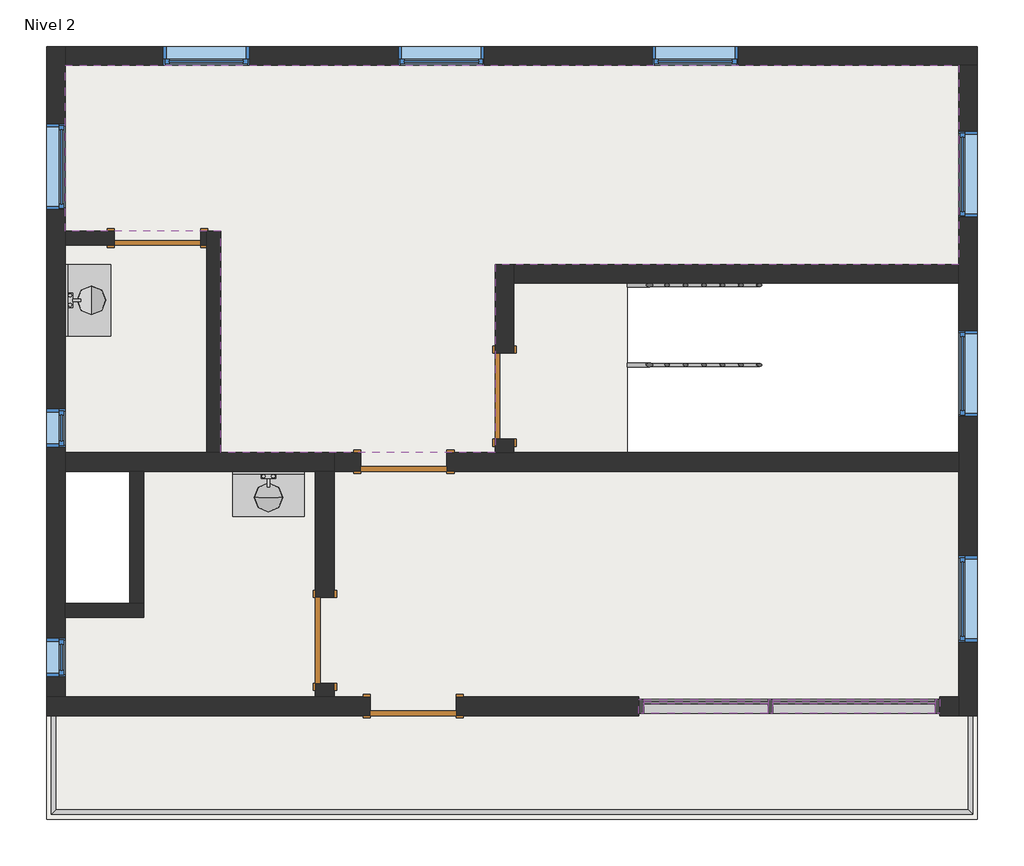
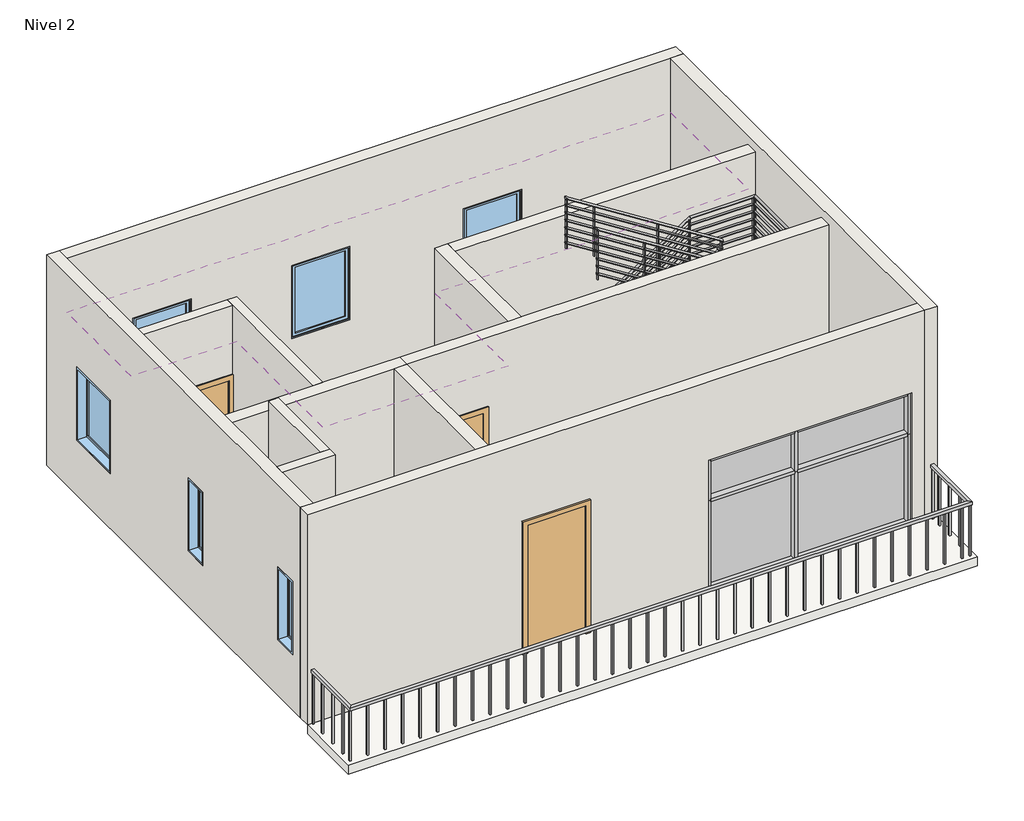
# One storey, incomplete: 13 walls, 12 members, 9 windows, 5 doors, 4 plates, 3 railings, 2 flow terminals, 1 covering, 1 slab.
"""IFC4 building model written with IfcOpenShell, lengths in millimetres."""

from ifc_helpers import new_model, si_unit, frame, origin, place, context, project, spatial, polyline, outline, extrude, faceted_brep, transform, mapped, element, save
from components import m_single_flush_0915_x_2134mm_6a9e8738, m_single_flush_0915_x_2134mm_727434cd, m_single_flush_0915_x_2134mm_f3d7f739, m_lavatory_vanity_760_mmx455_mm_private_5dea4168, rectangular_mullion_50mm_x_150mm_8ba0571e, rectangular_mullion_50mm_x_150mm_225b9777, rectangular_mullion_50mm_x_150mm_1a3ebe9d, rectangular_mullion_50mm_x_150mm_3dc27107, rectangular_mullion_50mm_x_150mm_964d2677, rectangular_mullion_50mm_x_150mm_461a195c, rectangular_mullion_50mm_x_150mm_84253eda, rectangular_mullion_50mm_x_150mm_205d2b36, system_panel_glazed_5259bb3b, system_panel_glazed_2a0213e2, system_panel_glazed_1ff09d7a, system_panel_glazed_c62e4b68, railing_900mm_pipe_3b92be15, railing_900mm_pipe_d5eff310, railing_900mm_rectangular_e904e20f, m_fixed_0406_x_1220mm_71a1fb2c, m_fixed_0915_x_1220mm_488fb2fb, m_fixed_0915_x_1220mm_5cd8e2eb

model = new_model("IFC4")

# Units and contexts
model_context = context("Model", 3, world=origin())
ifc_project = project(units=[si_unit("LENGTHUNIT", "METRE", prefix="MILLI")], contexts=[model_context])

# Site, building, storey
site = spatial("IfcSite", under=ifc_project)
building = spatial("IfcBuilding", under=site)
storey = spatial("IfcBuildingStorey", under=building, Name="Nivel 2", Elevation=3500.0)

# Covering
placement = place(None, origin())
element("IfcCovering", 1, ObjectType="600 x 1200mm grid", at=placement, inside=storey, context=model_context, shape_type="SweptSolid", body=[
    extrude(outline(polyline([(3069.2181942, -3352.0090589), (3904.2181942, -3352.0090589), (3904.2181942, -1797.0090589), (5729.2181942, -1797.0090589), (5729.2181942, -4197.0090589), (3069.2181942, -4197.0090589), (3069.2181942, -3352.0090589)])), frame((0.0, 0.0, 6100.0), z_axis=(0.0, 0.0, 1.0), x_axis=(1.0, 0.0, 0.0)), (0.0, 0.0, 1.0), 52.0),
    extrude(outline(polyline([(12569.2181942, 2522.9909411), (12569.2181942, 404.5332903), (7639.6809687, 404.5332903), (7639.6809687, -1597.0090589), (4724.2181942, -1597.0090589), (4724.2181942, 757.9909411), (3069.2181942, 757.9909411), (3069.2181942, 2522.9909411), (12569.2181942, 2522.9909411)])), frame((0.0, 0.0, 6100.0), z_axis=(0.0, 0.0, 1.0), x_axis=(1.0, 0.0, 0.0)), (0.0, 0.0, 1.0), 52.0),
    extrude(outline(polyline([(5929.2181942, -4197.0090589), (5929.2181942, -1797.0090589), (12569.2181942, -1797.0090589), (12569.2181942, -4197.0090589), (5929.2181942, -4197.0090589)])), frame((0.0, 0.0, 6100.0), z_axis=(0.0, 0.0, 1.0), x_axis=(1.0, 0.0, 0.0)), (0.0, 0.0, 1.0), 52.0),
    extrude(outline(polyline([(3069.2181942, -1597.0090589), (3069.2181942, 607.9909411), (4574.2181942, 607.9909411), (4574.2181942, -1597.0090589), (3069.2181942, -1597.0090589)])), frame((0.0, 0.0, 6100.0), z_axis=(0.0, 0.0, 1.0), x_axis=(1.0, 0.0, 0.0)), (0.0, 0.0, 1.0), 52.0),
])

# Doors
m_single_flush_0915_x_2134mm_shape = m_single_flush_0915_x_2134mm_6a9e8738(model_context)
element("IfcDoor", 2, ObjectType="M_Single-Flush : 0915 x 2134mm", at=placement, inside=storey, context=model_context, shape_type="MappedRepresentation", body=[
    mapped(m_single_flush_0915_x_2134mm_shape, transform((6769.2181942, -4297.0090589, 3500.0), x_axis=(-1.0, 0.0, 0.0), y_axis=(0.0, -1.0, 0.0), z_axis=(0.0, 0.0, 1.0))),
])
element("IfcDoor", 3, ObjectType="M_Single-Flush : 0915 x 2134mm", at=placement, inside=storey, context=model_context, shape_type="MappedRepresentation", body=[
    mapped(m_single_flush_0915_x_2134mm_shape, transform((6669.2181942, -1697.0090589, 3500.0), x_axis=(-1.0, 0.0, 0.0), y_axis=(0.0, -1.0, 0.0), z_axis=(0.0, 0.0, 1.0))),
])
m_single_flush_0915_x_2134mm_2_shape = m_single_flush_0915_x_2134mm_727434cd(model_context)
element("IfcDoor", 4, ObjectType="M_Single-Flush : 0915 x 2134mm", at=placement, inside=storey, context=model_context, shape_type="MappedRepresentation", body=[
    mapped(m_single_flush_0915_x_2134mm_2_shape, transform((5829.2181942, -3597.0090589, 3500.0), x_axis=(0.0, -1.0, 0.0), y_axis=(1.0, 0.0, 0.0), z_axis=(0.0, 0.0, 1.0))),
])
element("IfcDoor", 5, ObjectType="M_Single-Flush : 0915 x 2134mm", at=placement, inside=storey, context=model_context, shape_type="MappedRepresentation", body=[
    mapped(m_single_flush_0915_x_2134mm_2_shape, transform((7739.6809687, -997.0090589, 3500.0), x_axis=(0.0, -1.0, 0.0), y_axis=(1.0, 0.0, 0.0), z_axis=(0.0, 0.0, 1.0))),
])
m_single_flush_0915_x_2134mm_3_shape = m_single_flush_0915_x_2134mm_f3d7f739(model_context)
element("IfcDoor", 6, ObjectType="M_Single-Flush : 0915 x 2134mm", at=placement, inside=storey, context=model_context, shape_type="MappedRepresentation", body=[
    mapped(m_single_flush_0915_x_2134mm_3_shape, transform((4049.2181942, 682.9909411, 3500.0), x_axis=(1.0, 0.0, 0.0), y_axis=(0.0, 1.0, 0.0), z_axis=(0.0, 0.0, 1.0))),
])

# Flow terminals
m_lavatory_vanity_760_mmx455_mm_private_shape = m_lavatory_vanity_760_mmx455_mm_private_5dea4168(model_context)
element("IfcFlowTerminal", 7, ObjectType="M_Lavatory - Vanity : 760 mmx455 mm - Private", at=placement, inside=storey, context=model_context, shape_type="MappedRepresentation", body=[
    mapped(m_lavatory_vanity_760_mmx455_mm_private_shape, transform((5229.2181942, -1797.0090589, 3500.0), x_axis=(0.0, -1.0, 0.0), y_axis=(1.0, 0.0, 0.0), z_axis=(0.0, 0.0, 1.0))),
])
element("IfcFlowTerminal", 8, ObjectType="M_Lavatory - Vanity : 760 mmx455 mm - Private", at=placement, inside=storey, context=model_context, shape_type="MappedRepresentation", body=[
    mapped(m_lavatory_vanity_760_mmx455_mm_private_shape, transform((3069.2181942, 22.9909411, 3500.0), x_axis=(1.0, 0.0, 0.0), y_axis=(0.0, 1.0, 0.0), z_axis=(0.0, 0.0, 1.0))),
])

# Members
rectangular_mullion_50mm_x_150mm_shape = rectangular_mullion_50mm_x_150mm_8ba0571e(model_context)
element("IfcMember", 9, ObjectType="Rectangular Mullion : 50mm x 150mm", at=placement, inside=storey, context=model_context, shape_type="MappedRepresentation", body=[
    mapped(rectangular_mullion_50mm_x_150mm_shape, transform((10594.2181939, -4297.0090589, 5700.0), x_axis=(0.0, 0.0, 1.0), y_axis=(0.0, 1.0, 0.0), z_axis=(-1.0, 0.0, 0.0))),
])
rectangular_mullion_50mm_x_150mm_2_shape = rectangular_mullion_50mm_x_150mm_225b9777(model_context)
element("IfcMember", 10, ObjectType="Rectangular Mullion : 50mm x 150mm", at=placement, inside=storey, context=model_context, shape_type="MappedRepresentation", body=[
    mapped(rectangular_mullion_50mm_x_150mm_2_shape, transform((10544.2181939, -4297.0090589, 3500.0), x_axis=(0.0, 0.0, -1.0), y_axis=(0.0, 1.0, 0.0), z_axis=(1.0, 0.0, 0.0))),
])
rectangular_mullion_50mm_x_150mm_3_shape = rectangular_mullion_50mm_x_150mm_1a3ebe9d(model_context)
element("IfcMember", 11, ObjectType="Rectangular Mullion : 50mm x 150mm", at=placement, inside=storey, context=model_context, shape_type="MappedRepresentation", body=[
    mapped(rectangular_mullion_50mm_x_150mm_3_shape, transform((9219.2181942, -4297.0090589, 5000.0), x_axis=(0.0, 0.0, 1.0), y_axis=(0.0, 1.0, 0.0), z_axis=(-1.0, 0.0, 0.0))),
])
rectangular_mullion_50mm_x_150mm_4_shape = rectangular_mullion_50mm_x_150mm_3dc27107(model_context)
element("IfcMember", 12, ObjectType="Rectangular Mullion : 50mm x 150mm", at=placement, inside=storey, context=model_context, shape_type="MappedRepresentation", body=[
    mapped(rectangular_mullion_50mm_x_150mm_4_shape, transform((10594.2181939, -4297.0090589, 5000.0), x_axis=(0.0, 0.0, 1.0), y_axis=(0.0, 1.0, 0.0), z_axis=(-1.0, 0.0, 0.0))),
])
rectangular_mullion_50mm_x_150mm_5_shape = rectangular_mullion_50mm_x_150mm_964d2677(model_context)
element("IfcMember", 13, ObjectType="Rectangular Mullion : 50mm x 150mm", at=placement, inside=storey, context=model_context, shape_type="MappedRepresentation", body=[
    mapped(rectangular_mullion_50mm_x_150mm_5_shape, transform((10569.2181939, -4297.0090589, 3500.0), x_axis=(-1.0, 0.0, 0.0), y_axis=(0.0, 1.0, 0.0), z_axis=(0.0, 0.0, -1.0))),
])
element("IfcMember", 14, ObjectType="Rectangular Mullion : 50mm x 150mm", at=placement, inside=storey, context=model_context, shape_type="MappedRepresentation", body=[
    mapped(rectangular_mullion_50mm_x_150mm_shape, transform((12319.2181942, -4297.0090589, 3500.0), x_axis=(0.0, 0.0, -1.0), y_axis=(0.0, 1.0, 0.0), z_axis=(1.0, 0.0, 0.0))),
])
element("IfcMember", 15, ObjectType="Rectangular Mullion : 50mm x 150mm", at=placement, inside=storey, context=model_context, shape_type="MappedRepresentation", body=[
    mapped(rectangular_mullion_50mm_x_150mm_2_shape, transform((9219.2181942, -4297.0090589, 5700.0), x_axis=(0.0, 0.0, 1.0), y_axis=(0.0, 1.0, 0.0), z_axis=(-1.0, 0.0, 0.0))),
])
rectangular_mullion_50mm_x_150mm_6_shape = rectangular_mullion_50mm_x_150mm_461a195c(model_context)
element("IfcMember", 16, ObjectType="Rectangular Mullion : 50mm x 150mm", at=placement, inside=storey, context=model_context, shape_type="MappedRepresentation", body=[
    mapped(rectangular_mullion_50mm_x_150mm_6_shape, transform((12369.2181942, -4297.0090589, 5000.0), x_axis=(1.0, 0.0, 0.0), y_axis=(0.0, 1.0, 0.0), z_axis=(0.0, 0.0, 1.0))),
])
element("IfcMember", 17, ObjectType="Rectangular Mullion : 50mm x 150mm", at=placement, inside=storey, context=model_context, shape_type="MappedRepresentation", body=[
    mapped(rectangular_mullion_50mm_x_150mm_6_shape, transform((9169.2181942, -4297.0090589, 3500.0), x_axis=(-1.0, 0.0, 0.0), y_axis=(0.0, 1.0, 0.0), z_axis=(0.0, 0.0, -1.0))),
])
rectangular_mullion_50mm_x_150mm_7_shape = rectangular_mullion_50mm_x_150mm_84253eda(model_context)
element("IfcMember", 18, ObjectType="Rectangular Mullion : 50mm x 150mm", at=placement, inside=storey, context=model_context, shape_type="MappedRepresentation", body=[
    mapped(rectangular_mullion_50mm_x_150mm_7_shape, transform((10569.2181939, -4297.0090589, 5000.0), x_axis=(-1.0, 0.0, 0.0), y_axis=(0.0, 1.0, 0.0), z_axis=(0.0, 0.0, -1.0))),
])
rectangular_mullion_50mm_x_150mm_8_shape = rectangular_mullion_50mm_x_150mm_205d2b36(model_context)
element("IfcMember", 19, ObjectType="Rectangular Mullion : 50mm x 150mm", at=placement, inside=storey, context=model_context, shape_type="MappedRepresentation", body=[
    mapped(rectangular_mullion_50mm_x_150mm_8_shape, transform((9169.2181942, -4297.0090589, 5000.0), x_axis=(-1.0, 0.0, 0.0), y_axis=(0.0, 1.0, 0.0), z_axis=(0.0, 0.0, -1.0))),
])
element("IfcMember", 20, ObjectType="Rectangular Mullion : 50mm x 150mm", at=placement, inside=storey, context=model_context, shape_type="MappedRepresentation", body=[
    mapped(rectangular_mullion_50mm_x_150mm_8_shape, transform((12369.2181942, -4297.0090589, 5700.0), x_axis=(1.0, 0.0, 0.0), y_axis=(0.0, 1.0, 0.0), z_axis=(0.0, 0.0, 1.0))),
])

# Plates
system_panel_glazed_shape = system_panel_glazed_5259bb3b(model_context)
element("IfcPlate", 21, ObjectType="System Panel : Glazed", at=placement, inside=storey, context=model_context, shape_type="MappedRepresentation", body=[
    mapped(system_panel_glazed_shape, transform((11456.718194, -4297.0090589, 3550.0), x_axis=(-1.0, 0.0, 0.0), y_axis=(0.0, -1.0, 0.0), z_axis=(0.0, 0.0, 1.0))),
])
system_panel_glazed_2_shape = system_panel_glazed_2a0213e2(model_context)
element("IfcPlate", 22, ObjectType="System Panel : Glazed", at=placement, inside=storey, context=model_context, shape_type="MappedRepresentation", body=[
    mapped(system_panel_glazed_2_shape, transform((9881.718194, -4297.0090589, 3550.0), x_axis=(-1.0, 0.0, 0.0), y_axis=(0.0, -1.0, 0.0), z_axis=(0.0, 0.0, 1.0))),
])
system_panel_glazed_3_shape = system_panel_glazed_1ff09d7a(model_context)
element("IfcPlate", 23, ObjectType="System Panel : Glazed", at=placement, inside=storey, context=model_context, shape_type="MappedRepresentation", body=[
    mapped(system_panel_glazed_3_shape, transform((11456.718194, -4297.0090589, 5025.0), x_axis=(-1.0, 0.0, 0.0), y_axis=(0.0, -1.0, 0.0), z_axis=(0.0, 0.0, 1.0))),
])
system_panel_glazed_4_shape = system_panel_glazed_c62e4b68(model_context)
element("IfcPlate", 24, ObjectType="System Panel : Glazed", at=placement, inside=storey, context=model_context, shape_type="MappedRepresentation", body=[
    mapped(system_panel_glazed_4_shape, transform((9881.718194, -4297.0090589, 5025.0), x_axis=(-1.0, 0.0, 0.0), y_axis=(0.0, -1.0, 0.0), z_axis=(0.0, 0.0, 1.0))),
])

# Railings
railing_900mm_pipe_shape = railing_900mm_pipe_3b92be15(model_context)
element("IfcRailing", 25, ObjectType="900mm Pipe", at=placement, inside=storey, context=model_context, shape_type="MappedRepresentation", body=[
    mapped(railing_900mm_pipe_shape, transform((0.0, 0.0, 0.0), x_axis=(1.0, 0.0, 0.0), y_axis=(0.0, 1.0, 0.0), z_axis=(0.0, 0.0, 1.0))),
])
railing_900mm_pipe_2_shape = railing_900mm_pipe_d5eff310(model_context)
element("IfcRailing", 26, ObjectType="900mm Pipe", at=placement, inside=storey, context=model_context, shape_type="MappedRepresentation", body=[
    mapped(railing_900mm_pipe_2_shape, transform((0.0, 0.0, 0.0), x_axis=(1.0, 0.0, 0.0), y_axis=(0.0, 1.0, 0.0), z_axis=(0.0, 0.0, 1.0))),
])
railing_900mm_rectangular_shape = railing_900mm_rectangular_e904e20f(model_context)
element("IfcRailing", 27, ObjectType="900mm Rectangular", at=placement, inside=storey, context=model_context, shape_type="MappedRepresentation", body=[
    mapped(railing_900mm_rectangular_shape, transform((0.0, 0.0, 0.0), x_axis=(1.0, 0.0, 0.0), y_axis=(0.0, 1.0, 0.0), z_axis=(0.0, 0.0, 1.0))),
])

# Slab
element("IfcSlab", 28, ObjectType="Generic Floor - 400mm", at=placement, inside=storey, context=model_context, shape_type="SweptSolid", body=[
    extrude(outline(polyline([(12769.2181942, -5497.0090589), (2869.2181942, -5497.0090589), (2869.2181942, -4397.0090589), (3069.2181942, -4397.0090589), (3069.2181942, -3202.0090589), (3754.2181942, -3202.0090589), (3754.2181942, -1797.0090589), (3069.2181942, -1797.0090589), (3069.2181942, 2522.9909411), (12569.2181942, 2522.9909411), (12569.2181942, 204.5332903), (9044.2181942, 204.5332903), (9044.2181942, -1597.0090589), (12569.2181942, -1597.0090589), (12569.2181942, -4397.0090589), (12769.2181942, -4397.0090589), (12769.2181942, -5497.0090589)])), frame((0.0, 0.0, 3350.0), z_axis=(0.0, 0.0, 1.0), x_axis=(1.0, 0.0, 0.0)), (0.0, 0.0, 1.0), 150.0),
])

# Walls
element("IfcWall", 29, ObjectType="Generic - 150mm", at=placement, inside=storey, context=model_context, shape_type="SweptSolid", body=[
    extrude(outline(polyline([(3754.2181942, -3202.0090589), (3754.2181942, -1797.0090589), (3904.2181942, -1797.0090589), (3904.2181942, -3202.0090589), (3754.2181942, -3202.0090589)])), frame((0.0, 0.0, 3500.0), z_axis=(0.0, 0.0, 1.0), x_axis=(1.0, 0.0, 0.0)), (0.0, 0.0, 1.0), 3500.0),
])
element("IfcWall", 30, ObjectType="Generic - 150mm", at=placement, inside=storey, context=model_context, shape_type="Brep", body=[
    faceted_brep([(4724.2181942, -1597.0090589, 3500.0), (4724.2181942, 757.9909411, 3500.0), (4724.2181942, 757.9909411, 6850.0), (4724.2181942, -1597.0090589, 6850.0), (4574.2181942, -1597.0090589, 3500.0), (4574.2181942, -1597.0090589, 6850.0), (4574.2181942, 607.9909411, 6850.0), (4574.2181942, 757.9909411, 6850.0), (4574.2181942, 757.9909411, 3500.0), (4574.2181942, 607.9909411, 3500.0)], [[[0, 1, 2, 3]], [[4, 5, 6, 7, 8, 9]], [[1, 0, 4, 9, 8]], [[3, 2, 7, 6, 5]], [[2, 1, 8, 7]], [[0, 3, 5, 4]]]),
])
element("IfcWall", 31, ObjectType="Generic - 150mm", at=placement, inside=storey, context=model_context, shape_type="SweptSolid", body=[
    extrude(outline(polyline([(5634.0, 4506.7181942), (3500.0, 4506.7181942), (3500.0, 4574.2181942), (6850.0, 4574.2181942), (6850.0, 3069.2181942), (3500.0, 3069.2181942), (3500.0, 3591.7181942), (5634.0, 3591.7181942), (5634.0, 4506.7181942)])), frame((0.0, 607.9909411, 0.0), z_axis=(0.0, 1.0, 0.0), x_axis=(0.0, 0.0, 1.0)), (0.0, 0.0, 1.0), 150.0),
])
element("IfcWall", 32, ObjectType="Generic - 150mm", at=placement, inside=storey, context=model_context, shape_type="Brep", body=[
    faceted_brep([(3069.2181942, -3352.0090589, 3500.0), (3904.2181942, -3352.0090589, 3500.0), (3904.2181942, -3352.0090589, 7000.0), (3069.2181942, -3352.0090589, 7000.0), (3069.2181942, -3202.0090589, 3500.0), (3069.2181942, -3202.0090589, 7000.0), (3754.2181942, -3202.0090589, 7000.0), (3904.2181942, -3202.0090589, 7000.0), (3904.2181942, -3202.0090589, 3500.0), (3754.2181942, -3202.0090589, 3500.0)], [[[0, 1, 2, 3]], [[4, 5, 6, 7, 8, 9]], [[1, 0, 4, 9, 8]], [[3, 2, 7, 6, 5]], [[0, 3, 5, 4]], [[2, 1, 8, 7]]]),
])
element("IfcWall", 33, ObjectType="Generic - 200mm", at=placement, inside=storey, context=model_context, shape_type="Brep", body=[
    faceted_brep([(12769.2181942, 2722.9909411, 3500.0), (3069.2181942, 2722.9909411, 3500.0), (3069.2181942, 2722.9909411, 7000.0), (12769.2181942, 2722.9909411, 7000.0), (5026.7181942, 2722.9909411, 4415.0), (5026.7181942, 2722.9909411, 5635.0), (4111.7181942, 2722.9909411, 5635.0), (4111.7181942, 2722.9909411, 4415.0), (6611.7181942, 2722.9909411, 5635.0), (6611.7181942, 2722.9909411, 4415.0), (7526.7181942, 2722.9909411, 4415.0), (7526.7181942, 2722.9909411, 5635.0), (9311.7181942, 2722.9909411, 5635.0), (9311.7181942, 2722.9909411, 4415.0), (10226.7181942, 2722.9909411, 4415.0), (10226.7181942, 2722.9909411, 5635.0), (3069.2181942, 2522.9909411, 3500.0), (12569.2181942, 2522.9909411, 3500.0), (12769.2181942, 2522.9909411, 3500.0), (12769.2181942, 2522.9909411, 7000.0), (12569.2181942, 2522.9909411, 7000.0), (3069.2181942, 2522.9909411, 7000.0), (5026.7181942, 2522.9909411, 5635.0), (5026.7181942, 2522.9909411, 4415.0), (4111.7181942, 2522.9909411, 4415.0), (4111.7181942, 2522.9909411, 5635.0), (6611.7181942, 2522.9909411, 4415.0), (6611.7181942, 2522.9909411, 5635.0), (7526.7181942, 2522.9909411, 5635.0), (7526.7181942, 2522.9909411, 4415.0), (9311.7181942, 2522.9909411, 4415.0), (9311.7181942, 2522.9909411, 5635.0), (10226.7181942, 2522.9909411, 5635.0), (10226.7181942, 2522.9909411, 4415.0)], [[[0, 1, 2, 3], [4, 5, 6, 7], [8, 9, 10, 11], [12, 13, 14, 15]], [[16, 17, 18, 19, 20, 21], [22, 23, 24, 25], [26, 27, 28, 29], [30, 31, 32, 33]], [[1, 0, 18, 17, 16]], [[3, 2, 21, 20, 19]], [[0, 3, 19, 18]], [[2, 1, 16, 21]], [[4, 23, 22, 5]], [[6, 25, 24, 7]], [[23, 4, 7, 24]], [[26, 9, 8, 27]], [[10, 29, 28, 11]], [[9, 26, 29, 10]], [[30, 13, 12, 31]], [[14, 33, 32, 15]], [[13, 30, 33, 14]], [[25, 6, 5, 22]], [[11, 28, 27, 8]], [[15, 32, 31, 12]]]),
])
element("IfcWall", 34, ObjectType="Generic - 200mm", at=placement, inside=storey, context=model_context, shape_type="Brep", body=[
    faceted_brep([(12769.2181942, -4397.0090589, 3500.0), (12769.2181942, 2522.9909411, 3500.0), (12769.2181942, 2522.9909411, 7000.0), (12769.2181942, -4397.0090589, 7000.0), (12769.2181942, 905.4909411, 4415.0), (12769.2181942, 905.4909411, 5635.0), (12769.2181942, 1820.4909411, 5635.0), (12769.2181942, 1820.4909411, 4415.0), (12769.2181942, -1214.5090589, 4415.0), (12769.2181942, -1214.5090589, 5635.0), (12769.2181942, -299.5090589, 5635.0), (12769.2181942, -299.5090589, 4415.0), (12769.2181942, -3614.5090589, 4415.0), (12769.2181942, -3614.5090589, 5635.0), (12769.2181942, -2699.5090589, 5635.0), (12769.2181942, -2699.5090589, 4415.0), (12569.2181942, 2522.9909411, 3500.0), (12569.2181942, 404.5332903, 3500.0), (12569.2181942, 204.5332903, 3500.0), (12569.2181942, -1597.0090589, 3500.0), (12569.2181942, -1797.0090589, 3500.0), (12569.2181942, -4197.0090589, 3500.0), (12569.2181942, -4397.0090589, 3500.0), (12569.2181942, -4397.0090589, 7000.0), (12569.2181942, -4197.0090589, 7000.0), (12569.2181942, 2522.9909411, 7000.0), (12569.2181942, 905.4909411, 5635.0), (12569.2181942, 905.4909411, 4415.0), (12569.2181942, 1820.4909411, 4415.0), (12569.2181942, 1820.4909411, 5635.0), (12569.2181942, -1214.5090589, 5635.0), (12569.2181942, -1214.5090589, 4415.0), (12569.2181942, -299.5090589, 4415.0), (12569.2181942, -299.5090589, 5635.0), (12569.2181942, -3614.5090589, 5635.0), (12569.2181942, -3614.5090589, 4415.0), (12569.2181942, -2699.5090589, 4415.0), (12569.2181942, -2699.5090589, 5635.0)], [[[0, 1, 2, 3], [4, 5, 6, 7], [8, 9, 10, 11], [12, 13, 14, 15]], [[16, 17, 18, 19, 20, 21, 22, 23, 24, 25], [26, 27, 28, 29], [30, 31, 32, 33], [34, 35, 36, 37]], [[1, 0, 22, 21, 20, 19, 18, 17, 16]], [[3, 2, 25, 24, 23]], [[0, 3, 23, 22]], [[2, 1, 16, 25]], [[4, 27, 26, 5]], [[6, 29, 28, 7]], [[27, 4, 7, 28]], [[8, 31, 30, 9]], [[32, 11, 10, 33]], [[31, 8, 11, 32]], [[12, 35, 34, 13]], [[36, 15, 14, 37]], [[35, 12, 15, 36]], [[29, 6, 5, 26]], [[33, 10, 9, 30]], [[37, 14, 13, 34]]]),
])
element("IfcWall", 35, ObjectType="Generic - 200mm", at=placement, inside=storey, context=model_context, shape_type="Brep", body=[
    faceted_brep([(2869.2181942, -4397.0090589, 3500.0), (6311.7181942, -4397.0090589, 3500.0), (6311.7181942, -4397.0090589, 5634.0), (7226.7181942, -4397.0090589, 5634.0), (7226.7181942, -4397.0090589, 3500.0), (9169.2181942, -4397.0090589, 3500.0), (9169.2181942, -4397.0090589, 5700.0), (12369.2181942, -4397.0090589, 5700.0), (12369.2181942, -4397.0090589, 3500.0), (12569.2181942, -4397.0090589, 3500.0), (12569.2181942, -4397.0090589, 7000.0), (2869.2181942, -4397.0090589, 7000.0), (6311.7181942, -4197.0090589, 5634.0), (6311.7181942, -4197.0090589, 3500.0), (5929.2181942, -4197.0090589, 3500.0), (5729.2181942, -4197.0090589, 3500.0), (3069.2181942, -4197.0090589, 3500.0), (2869.2181942, -4197.0090589, 3500.0), (2869.2181942, -4197.0090589, 7000.0), (3069.2181942, -4197.0090589, 7000.0), (12569.2181942, -4197.0090589, 7000.0), (12569.2181942, -4197.0090589, 3500.0), (12369.2181942, -4197.0090589, 3500.0), (12369.2181942, -4197.0090589, 5700.0), (9169.2181942, -4197.0090589, 5700.0), (9169.2181942, -4197.0090589, 3500.0), (7226.7181942, -4197.0090589, 3500.0), (7226.7181942, -4197.0090589, 5634.0)], [[[0, 1, 2, 3, 4, 5, 6, 7, 8, 9, 10, 11]], [[12, 13, 14, 15, 16, 17, 18, 19, 20, 21, 22, 23, 24, 25, 26, 27]], [[21, 9, 8, 22]], [[26, 25, 5, 4]], [[17, 16, 15, 14, 13, 1, 0]], [[11, 10, 20, 19, 18]], [[0, 11, 18, 17]], [[10, 9, 21, 20]], [[7, 23, 22, 8]], [[24, 6, 5, 25]], [[6, 24, 23, 7]], [[2, 1, 13, 12]], [[3, 2, 12, 27]], [[4, 3, 27, 26]]]),
])
element("IfcWall", 36, ObjectType="Generic - 200mm", at=placement, inside=storey, context=model_context, shape_type="Brep", body=[
    faceted_brep([(2869.2181942, 2722.9909411, 3500.0), (2869.2181942, -4197.0090589, 3500.0), (2869.2181942, -4197.0090589, 7000.0), (2869.2181942, 2722.9909411, 7000.0), (2869.2181942, 1900.4909411, 4415.0), (2869.2181942, 1900.4909411, 5635.0), (2869.2181942, 985.4909411, 5635.0), (2869.2181942, 985.4909411, 4415.0), (2869.2181942, -1134.0090589, 4415.0), (2869.2181942, -1134.0090589, 5635.0), (2869.2181942, -1540.0090589, 5635.0), (2869.2181942, -1540.0090589, 4415.0), (2869.2181942, -3574.0090589, 4415.0), (2869.2181942, -3574.0090589, 5635.0), (2869.2181942, -3980.0090589, 5635.0), (2869.2181942, -3980.0090589, 4415.0), (3069.2181942, -4197.0090589, 3500.0), (3069.2181942, -3352.0090589, 3500.0), (3069.2181942, -3202.0090589, 3500.0), (3069.2181942, -1797.0090589, 3500.0), (3069.2181942, -1597.0090589, 3500.0), (3069.2181942, 607.9909411, 3500.0), (3069.2181942, 757.9909411, 3500.0), (3069.2181942, 2522.9909411, 3500.0), (3069.2181942, 2722.9909411, 3500.0), (3069.2181942, 2722.9909411, 7000.0), (3069.2181942, 2522.9909411, 7000.0), (3069.2181942, -3202.0090589, 7000.0), (3069.2181942, -3352.0090589, 7000.0), (3069.2181942, -4197.0090589, 7000.0), (3069.2181942, 1900.4909411, 5635.0), (3069.2181942, 1900.4909411, 4415.0), (3069.2181942, 985.4909411, 4415.0), (3069.2181942, 985.4909411, 5635.0), (3069.2181942, -1134.0090589, 5635.0), (3069.2181942, -1134.0090589, 4415.0), (3069.2181942, -1540.0090589, 4415.0), (3069.2181942, -1540.0090589, 5635.0), (3069.2181942, -3574.0090589, 5635.0), (3069.2181942, -3574.0090589, 4415.0), (3069.2181942, -3980.0090589, 4415.0), (3069.2181942, -3980.0090589, 5635.0)], [[[0, 1, 2, 3], [4, 5, 6, 7], [8, 9, 10, 11], [12, 13, 14, 15]], [[16, 17, 18, 19, 20, 21, 22, 23, 24, 25, 26, 27, 28, 29], [30, 31, 32, 33], [34, 35, 36, 37], [38, 39, 40, 41]], [[1, 0, 24, 23, 22, 21, 20, 19, 18, 17, 16]], [[3, 2, 29, 28, 27, 26, 25]], [[0, 3, 25, 24]], [[2, 1, 16, 29]], [[4, 31, 30, 5]], [[6, 33, 32, 7]], [[31, 4, 7, 32]], [[33, 6, 5, 30]], [[9, 8, 35, 34]], [[10, 9, 34, 37]], [[11, 10, 37, 36]], [[8, 11, 36, 35]], [[13, 12, 39, 38]], [[14, 13, 38, 41]], [[15, 14, 41, 40]], [[12, 15, 40, 39]]]),
])
element("IfcWall", 37, ObjectType="Generic - 200mm", at=placement, inside=storey, context=model_context, shape_type="SweptSolid", body=[
    extrude(outline(polyline([(-4054.5090589, 5634.0), (-4054.5090589, 3500.0), (-4197.0090589, 3500.0), (-4197.0090589, 6850.0), (-1797.0090589, 6850.0), (-1797.0090589, 3500.0), (-3139.5090589, 3500.0), (-3139.5090589, 5634.0), (-4054.5090589, 5634.0)])), frame((5729.2181942, 0.0, 0.0), z_axis=(1.0, 0.0, 0.0), x_axis=(0.0, 1.0, 0.0)), (0.0, 0.0, 1.0), 200.0),
])
element("IfcWall", 38, ObjectType="Generic - 200mm", at=placement, inside=storey, context=model_context, shape_type="Brep", body=[
    faceted_brep([(5929.2181942, -1597.0090589, 3500.0), (4724.2181942, -1597.0090589, 3500.0), (4574.2181942, -1597.0090589, 3500.0), (3069.2181942, -1597.0090589, 3500.0), (3069.2181942, -1597.0090589, 6850.0), (4574.2181942, -1597.0090589, 6850.0), (4724.2181942, -1597.0090589, 6850.0), (5929.2181942, -1597.0090589, 6850.0), (5929.2181942, -1797.0090589, 3500.0), (5929.2181942, -1797.0090589, 6850.0), (5729.2181942, -1797.0090589, 6850.0), (3069.2181942, -1797.0090589, 6850.0), (3069.2181942, -1797.0090589, 3500.0), (3754.2181942, -1797.0090589, 3500.0), (3904.2181942, -1797.0090589, 3500.0), (5729.2181942, -1797.0090589, 3500.0)], [[[0, 1, 2, 3, 4, 5, 6, 7]], [[8, 9, 10, 11, 12, 13, 14, 15]], [[3, 2, 1, 0, 8, 15, 14, 13, 12]], [[7, 6, 5, 4, 11, 10, 9]], [[4, 3, 12, 11]], [[0, 7, 9, 8]]]),
])
element("IfcWall", 39, ObjectType="Generic - 200mm", at=placement, inside=storey, context=model_context, shape_type="Brep", body=[
    faceted_brep([(6211.7181942, -1597.0090589, 5634.0), (6211.7181942, -1597.0090589, 3500.0), (5929.2181942, -1597.0090589, 3500.0), (5929.2181942, -1597.0090589, 6850.0), (7639.6809687, -1597.0090589, 6850.0), (7839.6809687, -1597.0090589, 6850.0), (12569.2181942, -1597.0090589, 6850.0), (12569.2181942, -1597.0090589, 3500.0), (7839.6809687, -1597.0090589, 3500.0), (7639.6809687, -1597.0090589, 3500.0), (7126.7181942, -1597.0090589, 3500.0), (7126.7181942, -1597.0090589, 5634.0), (5929.2181942, -1797.0090589, 3500.0), (6211.7181942, -1797.0090589, 3500.0), (6211.7181942, -1797.0090589, 5634.0), (7126.7181942, -1797.0090589, 5634.0), (7126.7181942, -1797.0090589, 3500.0), (12569.2181942, -1797.0090589, 3500.0), (12569.2181942, -1797.0090589, 6850.0), (5929.2181942, -1797.0090589, 6850.0)], [[[0, 1, 2, 3, 4, 5, 6, 7, 8, 9, 10, 11]], [[12, 13, 14, 15, 16, 17, 18, 19]], [[2, 1, 13, 12]], [[10, 9, 8, 7, 17, 16]], [[6, 5, 4, 3, 19, 18]], [[14, 13, 1, 0]], [[15, 14, 0, 11]], [[16, 15, 11, 10]], [[7, 6, 18, 17]], [[3, 2, 12, 19]]]),
])
element("IfcWall", 40, ObjectType="Generic - 200mm", at=placement, inside=storey, context=model_context, shape_type="SweptSolid", body=[
    extrude(outline(polyline([(7839.6809687, 404.5332903), (12569.2181942, 404.5332903), (12569.2181942, 204.5332903), (7839.6809687, 204.5332903), (7839.6809687, 404.5332903)])), frame((0.0, 0.0, 3500.0), z_axis=(0.0, 0.0, 1.0), x_axis=(1.0, 0.0, 0.0)), (0.0, 0.0, 1.0), 3350.0),
])
element("IfcWall", 41, ObjectType="Generic - 200mm", at=placement, inside=storey, context=model_context, shape_type="Brep", body=[
    faceted_brep([(7639.6809687, -1454.5090589, 5634.0), (7639.6809687, -1454.5090589, 3500.0), (7639.6809687, -1597.0090589, 3500.0), (7639.6809687, -1597.0090589, 6850.0), (7639.6809687, 404.5332903, 6850.0), (7639.6809687, 404.5332903, 3500.0), (7639.6809687, -539.5090589, 3500.0), (7639.6809687, -539.5090589, 5634.0), (7839.6809687, -1597.0090589, 3500.0), (7839.6809687, -1454.5090589, 3500.0), (7839.6809687, -1454.5090589, 5634.0), (7839.6809687, -539.5090589, 5634.0), (7839.6809687, -539.5090589, 3500.0), (7839.6809687, 204.5332903, 3500.0), (7839.6809687, 404.5332903, 3500.0), (7839.6809687, 404.5332903, 6850.0), (7839.6809687, 204.5332903, 6850.0), (7839.6809687, -1597.0090589, 6850.0)], [[[0, 1, 2, 3, 4, 5, 6, 7]], [[8, 9, 10, 11, 12, 13, 14, 15, 16, 17]], [[6, 5, 14, 13, 12]], [[2, 1, 9, 8]], [[4, 3, 17, 16, 15]], [[10, 9, 1, 0]], [[11, 10, 0, 7]], [[12, 11, 7, 6]], [[3, 2, 8, 17]], [[5, 4, 15, 14]]]),
])

# Windows
m_fixed_0406_x_1220mm_shape = m_fixed_0406_x_1220mm_71a1fb2c(model_context)
element("IfcWindow", 42, ObjectType="M_Fixed : 0406 x 1220mm", at=placement, inside=storey, context=model_context, shape_type="MappedRepresentation", body=[
    mapped(m_fixed_0406_x_1220mm_shape, transform((2956.2181942, -1337.0090589, 3500.0), x_axis=(0.0, -1.0, 0.0), y_axis=(1.0, 0.0, 0.0), z_axis=(0.0, 0.0, 1.0))),
])
element("IfcWindow", 43, ObjectType="M_Fixed : 0406 x 1220mm", at=placement, inside=storey, context=model_context, shape_type="MappedRepresentation", body=[
    mapped(m_fixed_0406_x_1220mm_shape, transform((2956.2181942, -3777.0090589, 3500.0), x_axis=(0.0, -1.0, 0.0), y_axis=(1.0, 0.0, 0.0), z_axis=(0.0, 0.0, 1.0))),
])
m_fixed_0915_x_1220mm_shape = m_fixed_0915_x_1220mm_488fb2fb(model_context)
element("IfcWindow", 44, ObjectType="M_Fixed : 0915 x 1220mm", at=placement, inside=storey, context=model_context, shape_type="MappedRepresentation", body=[
    mapped(m_fixed_0915_x_1220mm_shape, transform((12682.2181942, -3157.0090589, 3500.0), x_axis=(0.0, 1.0, 0.0), y_axis=(-1.0, 0.0, 0.0), z_axis=(0.0, 0.0, 1.0))),
])
element("IfcWindow", 45, ObjectType="M_Fixed : 0915 x 1220mm", at=placement, inside=storey, context=model_context, shape_type="MappedRepresentation", body=[
    mapped(m_fixed_0915_x_1220mm_shape, transform((12682.2181942, -757.0090589, 3500.0), x_axis=(0.0, 1.0, 0.0), y_axis=(-1.0, 0.0, 0.0), z_axis=(0.0, 0.0, 1.0))),
])
element("IfcWindow", 46, ObjectType="M_Fixed : 0915 x 1220mm", at=placement, inside=storey, context=model_context, shape_type="MappedRepresentation", body=[
    mapped(m_fixed_0915_x_1220mm_shape, transform((12682.2181942, 1362.9909411, 3500.0), x_axis=(0.0, 1.0, 0.0), y_axis=(-1.0, 0.0, 0.0), z_axis=(0.0, 0.0, 1.0))),
])
element("IfcWindow", 47, ObjectType="M_Fixed : 0915 x 1220mm", at=placement, inside=storey, context=model_context, shape_type="MappedRepresentation", body=[
    mapped(m_fixed_0915_x_1220mm_shape, transform((4569.2181942, 2635.9909411, 3500.0), x_axis=(-1.0, 0.0, 0.0), y_axis=(0.0, -1.0, 0.0), z_axis=(0.0, 0.0, 1.0))),
])
element("IfcWindow", 48, ObjectType="M_Fixed : 0915 x 1220mm", at=placement, inside=storey, context=model_context, shape_type="MappedRepresentation", body=[
    mapped(m_fixed_0915_x_1220mm_shape, transform((2956.2181942, 1442.9909411, 3500.0), x_axis=(0.0, -1.0, 0.0), y_axis=(1.0, 0.0, 0.0), z_axis=(0.0, 0.0, 1.0))),
])
m_fixed_0915_x_1220mm_2_shape = m_fixed_0915_x_1220mm_5cd8e2eb(model_context)
element("IfcWindow", 49, ObjectType="M_Fixed : 0915 x 1220mm", at=placement, inside=storey, context=model_context, shape_type="MappedRepresentation", body=[
    mapped(m_fixed_0915_x_1220mm_2_shape, transform((9769.2181942, 2635.9909411, 3500.0), x_axis=(1.0, 0.0, 0.0), y_axis=(0.0, 1.0, 0.0), z_axis=(0.0, 0.0, 1.0))),
])
element("IfcWindow", 50, ObjectType="M_Fixed : 0915 x 1220mm", at=placement, inside=storey, context=model_context, shape_type="MappedRepresentation", body=[
    mapped(m_fixed_0915_x_1220mm_2_shape, transform((7069.2181942, 2635.9909411, 3500.0), x_axis=(1.0, 0.0, 0.0), y_axis=(0.0, 1.0, 0.0), z_axis=(0.0, 0.0, 1.0))),
])

save(model, "model.ifc")
